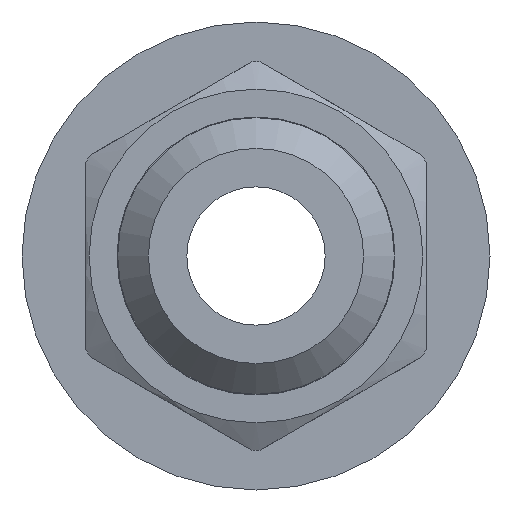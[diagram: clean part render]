
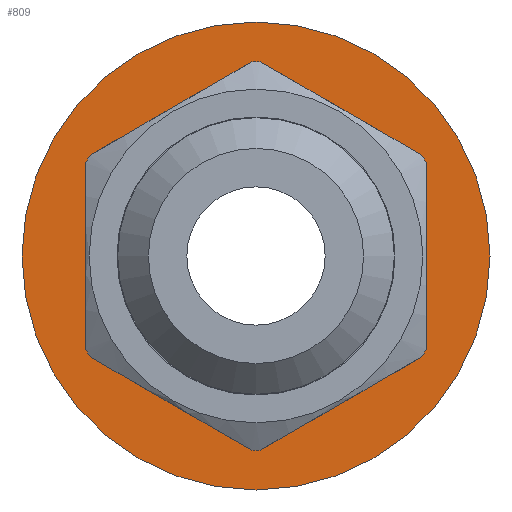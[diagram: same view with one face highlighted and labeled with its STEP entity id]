
A CAD part, front view. The second image highlights one B-rep face of the part: STEP entity #809.
In plain terms, the highlighted planar face has unit normal (0, -1, 0).
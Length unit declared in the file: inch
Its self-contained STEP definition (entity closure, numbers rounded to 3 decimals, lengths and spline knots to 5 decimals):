
#56=FACE_BOUND('',#188,.T.);
#74=PLANE('',#954);
#134=FACE_OUTER_BOUND('',#187,.T.);
#187=EDGE_LOOP('',(#734,#735));
#188=EDGE_LOOP('',(#736,#737));
#320=CIRCLE('',#955,0.3435);
#321=CIRCLE('',#956,0.3435);
#322=CIRCLE('',#957,0.164);
#323=CIRCLE('',#958,0.164);
#404=VERTEX_POINT('',#1493);
#405=VERTEX_POINT('',#1494);
#406=VERTEX_POINT('',#1497);
#407=VERTEX_POINT('',#1498);
#517=EDGE_CURVE('',#404,#405,#320,.T.);
#518=EDGE_CURVE('',#405,#404,#321,.T.);
#519=EDGE_CURVE('',#406,#407,#322,.T.);
#520=EDGE_CURVE('',#407,#406,#323,.T.);
#734=ORIENTED_EDGE('',*,*,#517,.T.);
#735=ORIENTED_EDGE('',*,*,#518,.T.);
#736=ORIENTED_EDGE('',*,*,#519,.F.);
#737=ORIENTED_EDGE('',*,*,#520,.F.);
#809=ADVANCED_FACE('',(#134,#56),#74,.T.);
#954=AXIS2_PLACEMENT_3D('',#1492,#1208,#1209);
#955=AXIS2_PLACEMENT_3D('',#1495,#1210,#1211);
#956=AXIS2_PLACEMENT_3D('',#1496,#1212,#1213);
#957=AXIS2_PLACEMENT_3D('',#1499,#1214,#1215);
#958=AXIS2_PLACEMENT_3D('',#1500,#1216,#1217);
#1208=DIRECTION('center_axis',(0.,-1.,0.));
#1209=DIRECTION('ref_axis',(0.,0.,-1.));
#1210=DIRECTION('center_axis',(0.,-1.,0.));
#1211=DIRECTION('ref_axis',(1.,0.,0.));
#1212=DIRECTION('center_axis',(0.,-1.,0.));
#1213=DIRECTION('ref_axis',(1.,0.,0.));
#1214=DIRECTION('center_axis',(0.,-1.,0.));
#1215=DIRECTION('ref_axis',(1.,0.,0.));
#1216=DIRECTION('center_axis',(0.,-1.,0.));
#1217=DIRECTION('ref_axis',(1.,0.,0.));
#1492=CARTESIAN_POINT('Origin',(0.,0.,-0.164));
#1493=CARTESIAN_POINT('',(0.,0.,-0.3435));
#1494=CARTESIAN_POINT('',(0.,0.,0.3435));
#1495=CARTESIAN_POINT('Origin',(0.,0.,0.));
#1496=CARTESIAN_POINT('Origin',(0.,0.,0.));
#1497=CARTESIAN_POINT('',(0.,0.,-0.164));
#1498=CARTESIAN_POINT('',(0.,0.,0.164));
#1499=CARTESIAN_POINT('Origin',(0.,0.,0.));
#1500=CARTESIAN_POINT('Origin',(0.,0.,0.));
